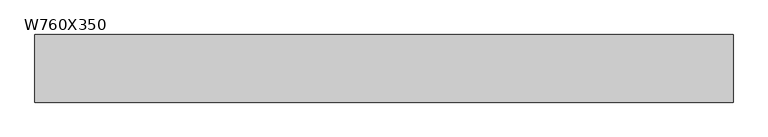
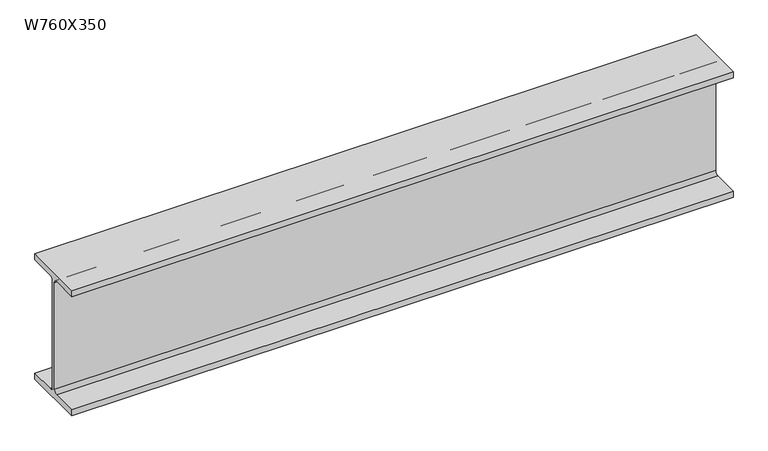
"""IFC4 building model written with IfcOpenShell, lengths in millimetres: beam geometry, M_W-Wide Flange : W760X350."""

from ifc_helpers import new_model, si_unit, point, frame, frame_2d, origin, place, context, project, spatial, polyline, circle_curve, trimmed, segment, composite_curve, outline, extrude, source, transform, mapped, element, save


def w760x350_97f56e91(model_context):
    return source(origin(), model_context, "Body", "SweptSolid", [
        extrude(outline(composite_curve([segment(polyline([(192.0, -359.4), (192.0, -397.5), (-192.0, -397.5), (-192.0, -359.4), (-32.75, -359.4)]), True, "CONTINUOUS"), segment(trimmed(circle_curve(frame_2d((-32.75, -337.2)), 22.2), [point((-32.75, -359.4))], [point((-10.55, -337.2))], True, "CARTESIAN"), True, "CONTINUOUS"), segment(polyline([(-10.55, -337.2), (-10.55, 337.2)]), True, "CONTINUOUS"), segment(trimmed(circle_curve(frame_2d((-32.75, 337.2)), 22.2), [point((-10.55, 337.2))], [point((-32.75, 359.4))], True, "CARTESIAN"), True, "CONTINUOUS"), segment(polyline([(-32.75, 359.4), (-192.0, 359.4), (-192.0, 397.5), (192.0, 397.5), (192.0, 359.4), (32.75, 359.4)]), True, "CONTINUOUS"), segment(trimmed(circle_curve(frame_2d((32.75, 337.2)), 22.2), [point((32.75, 359.4))], [point((10.55, 337.2))], True, "CARTESIAN"), True, "CONTINUOUS"), segment(polyline([(10.55, 337.2), (10.55, -337.2)]), True, "CONTINUOUS"), segment(trimmed(circle_curve(frame_2d((32.75, -337.2)), 22.2), [point((10.55, -337.2))], [point((32.75, -359.4))], True, "CARTESIAN"), True, "CONTINUOUS"), segment(polyline([(32.75, -359.4), (192.0, -359.4)]), True, "CONTINUOUS")], self_intersect=False)), frame((-3447.6039591, 0.0, 0.0), z_axis=(1.0, 0.0, 0.0), x_axis=(0.0, 1.0, 0.0)), (0.0, 0.0, 1.0), 3965.7383389),
    ])


if __name__ == "__main__":
    model = new_model("IFC4")
    model_context = context("Model", 3, world=origin())
    ifc_project = project(units=[si_unit("LENGTHUNIT", "METRE", prefix="MILLI")], contexts=[model_context])
    site = spatial("IfcSite", under=ifc_project)
    building = spatial("IfcBuilding", under=site)
    placement = place(None, origin())
    w760x350_shape = w760x350_97f56e91(model_context)
    element("IfcBeam", 1, ObjectType="M_W-Wide Flange : W760X350", at=placement, inside=building, context=model_context, shape_type="MappedRepresentation", body=[
        mapped(w760x350_shape, transform((0.0, 0.0, 0.0), x_axis=(1.0, 0.0, 0.0), y_axis=(0.0, 1.0, 0.0), z_axis=(0.0, 0.0, 1.0))),
    ])
    save(model, "model.ifc")
